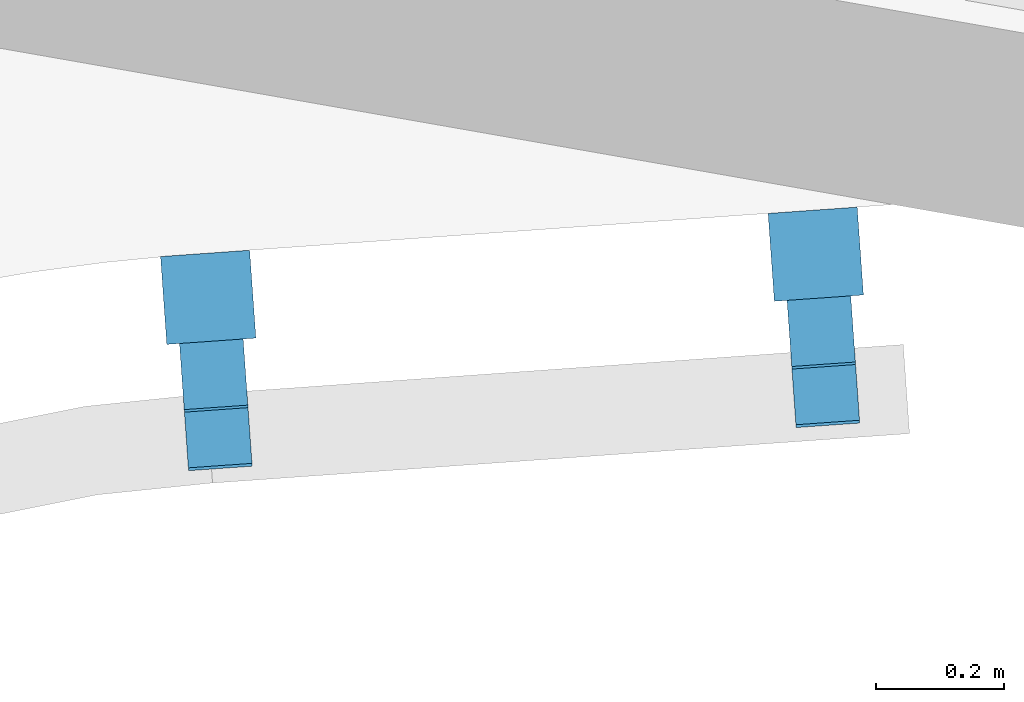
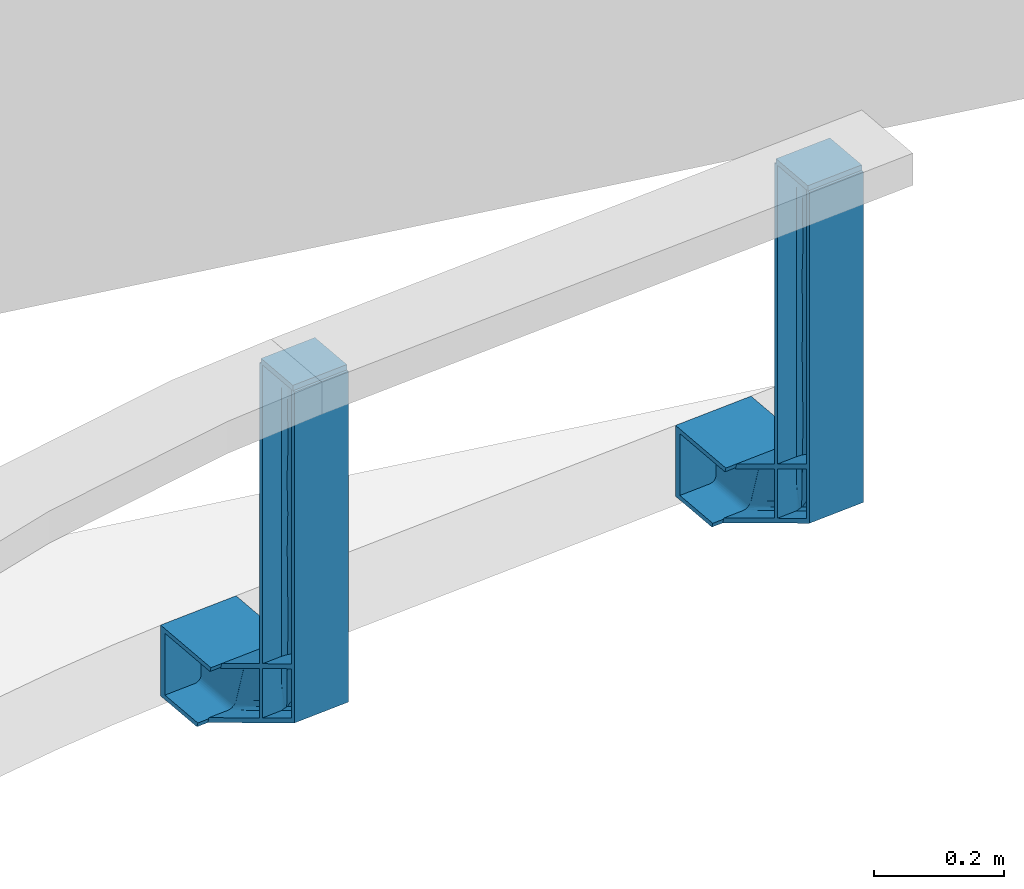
# One storey, part 46 of 68: 2 beams.
"""IFC2X3 building model written with IfcOpenShell, lengths in millimetres."""

from ifc_helpers import new_model, entity, si_unit, converted_unit, derived_unit, direction, frame, origin, place, context, subcontext, project, spatial, faceted_brep, source, transform, mapped, material, type_object, type_shapes, element, save


model = new_model("IFC2X3")

# Units and contexts
model_context = context("Model", 3, precision=0.01, world=origin(), true_north=direction((6.12303176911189e-17, 1.0)))
body_context = subcontext(model_context, "Body", "Model", "MODEL_VIEW")
ifc_project = project(units=[si_unit("LENGTHUNIT", "METRE", prefix="MILLI"), si_unit("AREAUNIT", "SQUARE_METRE", prefix="MILLI"), si_unit("VOLUMEUNIT", "CUBIC_METRE"), converted_unit("PLANEANGLEUNIT", "DEGREE", entity("IfcRatioMeasure", 0.0174532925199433), si_unit("PLANEANGLEUNIT", "RADIAN"), dimensions=[0, 0, 0, 0, 0, 0, 0]), si_unit("MASSUNIT", "GRAM", prefix="KILO"), derived_unit("MASSDENSITYUNIT", [(si_unit("MASSUNIT", "GRAM", prefix="KILO"), 1), (si_unit("LENGTHUNIT", "METRE"), -3)]), derived_unit("MOMENTOFINERTIAUNIT", [(si_unit("LENGTHUNIT", "METRE"), 4)]), si_unit("TIMEUNIT", "SECOND"), si_unit("FREQUENCYUNIT", "HERTZ"), si_unit("THERMODYNAMICTEMPERATUREUNIT", "DEGREE_CELSIUS"), derived_unit("THERMALTRANSMITTANCEUNIT", [(si_unit("MASSUNIT", "GRAM", prefix="KILO"), 1), (si_unit("THERMODYNAMICTEMPERATUREUNIT", "KELVIN"), -1), (si_unit("TIMEUNIT", "SECOND"), -3)]), derived_unit("VOLUMETRICFLOWRATEUNIT", [(si_unit("LENGTHUNIT", "METRE"), 3), (si_unit("TIMEUNIT", "SECOND"), -1)]), si_unit("ELECTRICCURRENTUNIT", "AMPERE"), si_unit("ELECTRICVOLTAGEUNIT", "VOLT"), si_unit("POWERUNIT", "WATT"), si_unit("FORCEUNIT", "NEWTON", prefix="KILO"), si_unit("ILLUMINANCEUNIT", "LUX"), si_unit("LUMINOUSFLUXUNIT", "LUMEN"), si_unit("LUMINOUSINTENSITYUNIT", "CANDELA"), derived_unit("USERDEFINED", [(si_unit("MASSUNIT", "GRAM", prefix="KILO"), -1), (si_unit("LENGTHUNIT", "METRE"), -2), (si_unit("TIMEUNIT", "SECOND"), 3), (si_unit("LUMINOUSFLUXUNIT", "LUMEN"), 1)]), derived_unit("LINEARVELOCITYUNIT", [(si_unit("LENGTHUNIT", "METRE"), 1), (si_unit("TIMEUNIT", "SECOND"), -1)]), si_unit("PRESSUREUNIT", "PASCAL"), derived_unit("USERDEFINED", [(si_unit("LENGTHUNIT", "METRE"), -2), (si_unit("MASSUNIT", "GRAM", prefix="KILO"), 1), (si_unit("TIMEUNIT", "SECOND"), -2)]), derived_unit("LINEARFORCEUNIT", [(si_unit("MASSUNIT", "GRAM", prefix="KILO"), 1), (si_unit("LENGTHUNIT", "METRE"), 1), (si_unit("TIMEUNIT", "SECOND"), -2), (si_unit("LENGTHUNIT", "METRE"), -1)]), derived_unit("PLANARFORCEUNIT", [(si_unit("MASSUNIT", "GRAM", prefix="KILO"), 1), (si_unit("LENGTHUNIT", "METRE"), 1), (si_unit("TIMEUNIT", "SECOND"), -2), (si_unit("LENGTHUNIT", "METRE"), -2)])], contexts=[model_context])

# Site, building, storey
site_placement = place(None, origin())
site = spatial("IfcSite", under=ifc_project, at=site_placement, Name="Theater aan de Parade", CompositionType="ELEMENT")
building_placement = place(site_placement, origin())
building = spatial("IfcBuilding", under=site, at=building_placement, Name="Theater aan de Parade", CompositionType="ELEMENT")
storey_placement = place(building_placement, frame((0.0, 0.0, 8750.0)))
storey = spatial("IfcBuildingStorey", under=building, at=storey_placement, Name="02 tweede verdieping", CompositionType="ELEMENT", Elevation=8750.0)

# Beams
ifc_material = material(Name="00_PBT_MAT_staal_S355")
beam_type = type_object("IfcBeamType", Name="28_PBT_SF_staal_baluster balkon:baluster HEA100", PredefinedType="BEAM", material=ifc_material)
shared_shape = source(origin(), body_context, "Body", "Brep", [
    faceted_brep([(50.0, -43.537813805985, 625.0), (50.0, 44.0, 625.0), (50.0, 44.0, 635.0), (50.0, -43.537813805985, 635.0), (-50.0, -43.537813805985, 625.0), (-50.0, -43.537813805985, 635.0), (-50.0, 44.0, 635.0), (-50.0, 44.0, 625.0)], [[[0, 1, 2, 3]], [[4, 5, 6, 7]], [[1, 0, 4, 7]], [[2, 1, 7, 6]], [[3, 2, 6, 5]], [[0, 3, 5, 4]]]),
    faceted_brep([(70.0, 278.0, -133.0), (70.0, 290.0, -133.0), (70.0, 290.0, 0.0), (70.0, 278.0, 0.0), (-70.0, 278.0, -133.0), (-70.0, 278.0, 0.0), (-70.0, 290.0, 0.0), (-70.0, 290.0, -133.0)], [[[0, 1, 2, 3]], [[4, 5, 6, 7]], [[1, 0, 4, 7]], [[2, 1, 7, 6]], [[3, 2, 6, 5]], [[0, 3, 5, 4]]]),
    faceted_brep([(14.7499999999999, 278.0, -124.5), (70.0, 278.0, -124.5), (70.0, 278.0, -133.0), (-70.0, 278.0, -133.0), (-70.0, 278.0, -124.500000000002), (-14.7500000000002, 278.0, -124.500000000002), (-11.6441714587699, 278.0, -124.091109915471), (-8.75000000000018, 278.0, -122.892304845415), (-6.26471862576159, 278.0, -120.98528137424), (-4.3576951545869, 278.0, -118.500000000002), (-3.15889008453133, 278.0, -115.605828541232), (-2.75000000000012, 278.0, -112.500000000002), (-2.75000000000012, 278.0, -20.500000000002), (-3.15889008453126, 278.0, -17.3941714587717), (-4.35769515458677, 278.0, -14.500000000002), (-6.26471862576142, 278.0, -12.0147186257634), (-8.74999999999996, 278.0, -10.1076951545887), (-11.6441714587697, 278.0, -8.90889008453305), (-14.7500000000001, 278.0, -8.50000000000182), (-70.0, 278.0, -8.50000000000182), (-70.0, 278.0, 0.0), (70.0, 278.0, 0.0), (70.0, 278.0, -8.50000000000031), (14.7499999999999, 278.0, -8.50000000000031), (11.6441714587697, 278.0, -8.90889008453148), (8.74999999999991, 278.0, -10.107695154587), (6.26471862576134, 278.0, -12.0147186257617), (4.35769515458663, 278.0, -14.5000000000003), (3.15889008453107, 278.0, -17.39417145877), (2.74999999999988, 278.0, -20.5000000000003), (2.74999999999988, 278.0, -112.5), (3.15889008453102, 278.0, -115.60582854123), (4.35769515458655, 278.0, -118.5), (6.26471862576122, 278.0, -120.985281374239), (8.74999999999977, 278.0, -122.892304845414), (11.6441714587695, 278.0, -124.091109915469), (70.0, 151.923048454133, 0.0), (70.0, 154.37480362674, -8.50000000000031), (70.0, 187.834050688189, -124.5), (70.0, 190.285805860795, -133.0), (14.7499999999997, 154.37480362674, -8.50000000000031), (14.7499999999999, 214.85290376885, -8.50000000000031), (-14.7500000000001, 214.852897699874, -8.50000000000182), (-14.7500000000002, 154.37480362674, -8.50000000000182), (-70.0, 154.37480362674, -8.50000000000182), (6.43965673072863, 216.327371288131, -11.8433150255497), (2.74999999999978, 217.521900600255, -20.5000000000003), (12.079748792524, 154.461585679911, -8.8008650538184), (9.5433951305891, 154.717580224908, -9.68837358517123), (7.26812237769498, 155.129950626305, -11.1180222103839), (5.36802221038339, 155.678018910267, -13.0181223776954), (3.05086505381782, 157.065893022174, -17.8297487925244), (2.74999999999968, 157.83610504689, -20.5000000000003), (3.9383735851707, 156.334302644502, -15.2933951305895), (2.74999999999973, 184.372749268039, -112.5), (3.93837358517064, 185.874551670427, -117.706604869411), (3.05086505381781, 185.142961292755, -115.170251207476), (5.36802221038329, 186.530835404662, -119.981877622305), (7.26812237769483, 187.078903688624, -121.881977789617), (9.54339513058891, 187.491274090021, -123.311626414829), (12.0797487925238, 187.747268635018, -124.199134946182), (14.7499999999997, 187.834050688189, -124.5), (-70.0, 187.83405068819, -124.500000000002), (-14.7500000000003, 187.83405068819, -124.500000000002), (-70.0, 190.285805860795, -133.0), (-70.0, 151.923048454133, 0.0), (-9.54339513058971, 187.491274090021, -123.311626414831), (-12.0797487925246, 187.747268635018, -124.199134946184), (-7.2681223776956, 187.078903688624, -121.881977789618), (-5.36802221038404, 186.530835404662, -119.981877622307), (-3.93837358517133, 185.874551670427, -117.706604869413), (-3.05086505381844, 185.142961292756, -115.170251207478), (-2.75000000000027, 184.37274926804, -112.500000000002), (-2.75000000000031, 157.83610504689, -20.500000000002), (-2.75000000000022, 217.521907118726, -20.5000000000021), (-6.43965718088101, 216.327373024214, -11.8433145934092), (-3.05086505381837, 157.065893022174, -17.8297487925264), (-3.93837358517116, 156.334302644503, -15.2933951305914), (-5.36802221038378, 155.678018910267, -13.0181223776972), (-7.2681223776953, 155.129950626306, -11.1180222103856), (-9.54339513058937, 154.717580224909, -9.68837358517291), (-12.0797487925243, 154.461585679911, -8.80086505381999)], [[[0, 1, 2, 3, 4, 5, 6, 7, 8, 9, 10, 11, 12, 13, 14, 15, 16, 17, 18, 19, 20, 21, 22, 23, 24, 25, 26, 27, 28, 29, 30, 31, 32, 33, 34, 35]], [[22, 21, 36, 37]], [[2, 1, 38, 39]], [[23, 22, 37, 40, 41]], [[19, 18, 42, 43, 44]], [[24, 45, 25]], [[25, 45, 26]], [[27, 45, 46]], [[41, 40, 47]], [[23, 41, 24]], [[27, 26, 45]], [[41, 47, 48]], [[45, 49, 50]], [[46, 29, 28]], [[48, 45, 41]], [[46, 28, 27]], [[51, 52, 46]], [[51, 46, 53]], [[45, 53, 46]], [[50, 53, 45]], [[48, 49, 45]], [[41, 45, 24]], [[30, 29, 46, 52, 54]], [[55, 32, 31]], [[56, 31, 30]], [[30, 54, 56]], [[32, 55, 57]], [[55, 31, 56]], [[57, 33, 32]], [[34, 33, 58]], [[35, 34, 59]], [[0, 35, 60]], [[34, 58, 59]], [[0, 60, 61]], [[60, 35, 59]], [[57, 58, 33]], [[1, 0, 61, 38]], [[5, 4, 62, 63]], [[3, 2, 39, 64]], [[4, 3, 64, 62]], [[20, 19, 44, 65]], [[66, 7, 6]], [[67, 6, 5]], [[5, 63, 67]], [[7, 66, 68]], [[66, 6, 67]], [[68, 8, 7]], [[9, 8, 69]], [[10, 9, 70]], [[11, 10, 71]], [[9, 69, 70]], [[11, 71, 72]], [[71, 10, 70]], [[68, 69, 8]], [[12, 11, 72, 73, 74]], [[74, 14, 13]], [[75, 15, 14]], [[17, 16, 75]], [[74, 73, 76]], [[16, 15, 75]], [[76, 77, 74]], [[75, 78, 79]], [[80, 81, 42]], [[77, 75, 74]], [[12, 74, 13]], [[75, 42, 17]], [[42, 18, 17]], [[42, 81, 43]], [[75, 80, 42]], [[80, 75, 79]], [[77, 78, 75]], [[75, 14, 74]], [[21, 20, 65, 36]], [[61, 60, 59, 58, 57, 55, 56, 54, 52, 51, 53, 50, 49, 48, 47, 40, 37, 36, 65, 44, 43, 81, 80, 79, 78, 77, 76, 73, 72, 71, 70, 69, 68, 66, 67, 63, 62, 64, 39, 38]]]),
    faceted_brep([(50.0, 155.119944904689, -11.0833333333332), (50.0, 151.923048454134, 0.0), (50.0, -48.0, 115.425625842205), (50.0, -48.0, 106.188021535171), (50.0, 190.285805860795, -133.0), (50.0, 187.08890941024, -121.916666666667), (50.0, -48.0, 13.8119784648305), (50.0, -48.0, 4.57437415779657), (14.4999999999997, 155.119944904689, -11.0833333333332), (14.4999999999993, -48.0, 106.188021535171), (14.4999999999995, 4.37555520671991, 75.9489806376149), (14.4999999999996, 56.7511250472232, 45.7099312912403), (-50.0, 155.119944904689, -11.0833333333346), (-14.5000000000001, 155.119944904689, -11.0833333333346), (-14.5000000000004, 56.7511361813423, 45.7099248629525), (-14.5000000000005, 4.37556274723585, 75.9489762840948), (-14.5000000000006, -48.0, 106.188021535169), (-50.0, -48.0, 106.188021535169), (12.1589161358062, 155.212086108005, -11.4027780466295), (6.13940978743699, 85.6560198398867, 25.105130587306), (9.9077988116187, 155.484968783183, -12.348836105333), (2.80086505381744, -48.0, 95.4149555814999), (2.49999999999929, -48.0, 92.3316150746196), (2.49999999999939, 4.37556701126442, 62.092567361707), (2.49999999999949, 55.164155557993, 32.7697620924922), (6.04197655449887, 10.2229142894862, 68.5459327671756), (2.49999999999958, 107.539722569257, 2.53071437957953), (2.49999999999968, 159.915289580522, -27.7083333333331), (2.73057663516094, 158.979764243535, -24.4649567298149), (7.83315720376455, 155.92810620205, -13.8851510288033), (11.8297487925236, -48.0, 105.840612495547), (3.41344560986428, 158.0801906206, -21.3462212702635), (4.52236465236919, 157.25113882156, -18.4719782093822), (7.01812237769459, -48.0, 103.164989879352), (5.11802221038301, -48.0, 100.970943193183), (3.68837358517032, -48.0, 98.3436845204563), (9.29339513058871, -48.0, 104.815805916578), (6.01471862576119, 156.524468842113, -15.9526830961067), (2.49999999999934, -48.0, 27.6683849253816), (2.49999999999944, 4.37556959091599, -2.57066427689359), (2.49999999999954, 56.7511354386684, -32.8097113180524), (2.49999999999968, 129.917998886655, -75.052619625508), (2.49999999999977, 182.293564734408, -105.291666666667), (4.52236465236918, 184.957715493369, -114.528021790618), (6.30956465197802, 103.743785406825, -70.0679088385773), (6.01471862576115, 185.684385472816, -117.047316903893), (14.4999999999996, 134.713341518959, -91.6776184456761), (9.90779881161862, 186.723885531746, -120.651163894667), (7.83315720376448, 186.280748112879, -119.114848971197), (12.1589161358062, 186.996768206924, -121.597221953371), (14.4999999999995, 69.5444547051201, -54.0523441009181), (5.87838992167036, 26.3899882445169, -24.9186641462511), (14.4999999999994, 4.3755678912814, -16.4270697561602), (5.11802221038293, -48.0, 19.0290568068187), (3.4134456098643, 184.128663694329, -111.653778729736), (2.80086505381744, -48.0, 24.5850444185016), (3.68837358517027, -48.0, 21.6563154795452), (14.4999999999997, 187.08890941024, -121.916666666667), (7.01812237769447, -48.0, 16.8350101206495), (9.29339513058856, -48.0, 15.1841940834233), (2.73057663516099, 183.229090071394, -108.535043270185), (14.4999999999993, -48.0, 13.8119784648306), (11.8297487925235, -48.0, 14.1593875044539), (-50.0, 187.088909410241, -121.916666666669), (-50.0, -48.0, 13.8119784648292), (-14.5000000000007, -48.0, 13.8119784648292), (-14.5000000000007, 4.37556899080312, -16.4270703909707), (-14.5000000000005, 69.5444561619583, -54.0523449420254), (-14.5000000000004, 134.713343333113, -91.6776194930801), (-14.5000000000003, 187.088909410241, -121.916666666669), (-50.0, 190.285805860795, -133.0), (-50.0, -48.0, 4.57437415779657), (-50.0, 151.923048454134, 0.0), (-50.0, -48.0, 115.425625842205), (-6.30956482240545, 103.743788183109, -70.0679106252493), (-3.41344560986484, 184.128663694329, -111.653778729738), (-4.52236465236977, 184.95771549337, -114.52802179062), (-2.50000000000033, 129.917999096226, -75.0526197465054), (-9.29339513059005, -48.0, 15.1841940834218), (-7.01812237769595, -48.0, 16.835010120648), (-5.87838988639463, 26.389986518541, -24.9186631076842), (-7.8331572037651, 186.28074811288, -119.114848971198), (-6.01471862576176, 185.684385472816, -117.047316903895), (-11.829748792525, -48.0, 14.1593875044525), (-5.11802221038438, -48.0, 19.0290568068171), (-2.50000000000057, 4.37557526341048, -2.57066755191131), (-2.50000000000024, 182.293564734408, -105.291666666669), (-2.7305766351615, 183.229090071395, -108.535043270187), (-9.90779881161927, 186.723885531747, -120.651163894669), (-12.1589161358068, 186.996768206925, -121.597221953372), (-2.80086505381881, -48.0, 24.5850444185), (-2.50000000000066, -48.0, 27.6683849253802), (-2.50000000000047, 56.7511409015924, -32.8097144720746), (-3.68837358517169, -48.0, 21.6563154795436), (-2.50000000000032, 159.915289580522, -27.708333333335), (-2.50000000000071, -48.0, 92.3316150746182), (-2.50000000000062, 4.37556371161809, 62.0925692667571), (-2.50000000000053, 55.1641543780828, 32.7697627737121), (-2.50000000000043, 107.539718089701, 2.53071696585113), (-2.73057663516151, 158.979764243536, -24.464956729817), (-11.8297487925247, -48.0, 105.840612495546), (-6.01471862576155, 156.524468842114, -15.9526830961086), (-6.13940988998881, 85.6560228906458, 25.1051289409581), (-7.83315720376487, 155.92810620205, -13.885151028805), (-5.11802221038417, -48.0, 100.970943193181), (-7.0181223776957, -48.0, 103.16498987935), (-6.04197656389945, 10.2229155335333, 68.5459320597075), (-9.90779881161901, 155.484968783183, -12.3488361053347), (-4.52236465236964, 157.25113882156, -18.4719782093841), (-2.80086505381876, -48.0, 95.4149555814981), (-3.68837358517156, -48.0, 98.3436845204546), (-12.1589161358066, 155.212086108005, -11.402778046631), (-3.41344560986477, 158.080190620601, -21.3462212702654), (-9.29339513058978, -48.0, 104.815805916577)], [[[0, 1, 2, 3]], [[4, 5, 6, 7]], [[8, 0, 3, 9, 10, 11]], [[12, 13, 14, 15, 16, 17]], [[18, 19, 20]], [[21, 22, 23]], [[23, 24, 25]], [[26, 27, 28]], [[29, 20, 19]], [[26, 19, 24]], [[10, 25, 11]], [[8, 11, 18]], [[18, 11, 19]], [[11, 25, 19]], [[19, 25, 24]], [[10, 9, 30]], [[31, 32, 26]], [[33, 34, 25]], [[35, 25, 34]], [[23, 25, 35]], [[33, 25, 36]], [[28, 31, 26]], [[37, 19, 32]], [[36, 10, 30]], [[19, 26, 32]], [[21, 23, 35]], [[25, 10, 36]], [[29, 19, 37]], [[27, 26, 24, 23, 22, 38, 39, 40, 41, 42]], [[43, 44, 45]], [[46, 47, 48]], [[49, 47, 46]], [[50, 51, 52]], [[51, 39, 53]], [[44, 43, 54]], [[39, 38, 55]], [[56, 39, 55]], [[46, 57, 49]], [[44, 41, 40]], [[51, 53, 58]], [[44, 48, 45]], [[58, 59, 51]], [[44, 54, 41]], [[60, 41, 54]], [[51, 44, 40]], [[61, 52, 62]], [[51, 40, 39]], [[50, 46, 44]], [[46, 48, 44]], [[53, 39, 56]], [[60, 42, 41]], [[62, 52, 59]], [[50, 44, 51]], [[59, 52, 51]], [[5, 57, 46, 50, 52, 61, 6]], [[63, 64, 65, 66, 67, 68, 69]], [[70, 4, 7, 71]], [[63, 70, 71, 64]], [[72, 12, 17, 73]], [[74, 68, 67]], [[74, 75, 76]], [[75, 74, 77]], [[78, 79, 80]], [[81, 74, 82]], [[78, 66, 83]], [[84, 85, 80]], [[77, 86, 87]], [[68, 81, 88]], [[89, 68, 88]], [[90, 91, 85]], [[80, 74, 67]], [[66, 78, 80]], [[74, 80, 92]], [[66, 65, 83]], [[92, 80, 85]], [[90, 85, 93]], [[85, 84, 93]], [[81, 68, 74]], [[79, 84, 80]], [[68, 89, 69]], [[76, 82, 74]], [[92, 77, 74]], [[75, 77, 87]], [[66, 80, 67]], [[94, 86, 77, 92, 85, 91, 95, 96, 97, 98]], [[98, 99, 94]], [[100, 16, 15]], [[101, 102, 103]], [[104, 105, 106]], [[103, 102, 107]], [[108, 102, 101]], [[102, 106, 14]], [[102, 97, 106]], [[108, 98, 102]], [[96, 109, 110]], [[102, 111, 107]], [[96, 106, 97]], [[104, 106, 110]], [[99, 98, 112]], [[106, 15, 14]], [[108, 112, 98]], [[100, 15, 113]], [[111, 102, 14]], [[110, 106, 96]], [[98, 97, 102]], [[15, 106, 113]], [[14, 13, 111]], [[113, 106, 105]], [[96, 95, 109]], [[1, 72, 73, 2]], [[61, 62, 59, 58, 53, 56, 55, 38, 22, 21, 35, 34, 33, 36, 30, 9, 3, 2, 73, 17, 16, 100, 113, 105, 104, 110, 109, 95, 91, 90, 93, 84, 79, 78, 83, 65, 64, 71, 7, 6]], [[8, 18, 20, 29, 37, 32, 31, 28, 27, 42, 60, 54, 43, 45, 48, 47, 49, 57, 5, 4, 70, 63, 69, 89, 88, 81, 82, 76, 75, 87, 86, 94, 99, 112, 108, 101, 103, 107, 111, 13, 12, 72, 1, 0]]]),
    faceted_brep([(14.4999999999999, 40.0, 625.0), (50.0, 40.0, 625.0), (50.0, 48.0, 625.0), (-50.0, 48.0, 625.0), (-50.0, 40.0, 625.0), (-14.5000000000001, 40.0, 625.0), (-11.3941714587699, 39.5911099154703, 625.0), (-8.50000000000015, 38.3923048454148, 625.0), (-6.01471862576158, 36.4852813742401, 625.0), (-4.10769515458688, 34.0, 625.0), (-2.90889008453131, 31.1058285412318, 625.0), (-2.50000000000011, 28.0, 625.0), (-2.50000000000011, -28.0, 625.0), (-2.90889008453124, -31.1058285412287, 625.0), (-4.10769515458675, -34.0, 625.0), (-6.01471862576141, -36.4852813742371, 625.0), (-8.49999999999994, -38.3923048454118, 625.0), (-11.3941714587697, -39.5911099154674, 625.0), (-14.5000000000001, -40.0, 625.0), (-50.0, -40.0, 625.0), (-50.0, -48.0, 625.0), (50.0, -48.0, 625.0), (50.0, -40.0, 625.0), (14.4999999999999, -40.0, 625.0), (11.3941714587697, -39.5911099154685, 625.0), (8.49999999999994, -38.392304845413, 625.0), (6.01471862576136, -36.4852813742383, 625.0), (4.10769515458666, -34.0, 625.0), (2.90889008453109, -31.10582854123, 625.0), (2.49999999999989, -28.0, 625.0), (2.49999999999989, 28.0, 625.0), (2.90889008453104, 31.1058285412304, 625.0), (4.10769515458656, 34.0, 625.0), (6.01471862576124, 36.4852813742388, 625.0), (8.4999999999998, 38.3923048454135, 625.0), (11.3941714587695, 39.5911099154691, 625.0), (50.0, -48.0, 165.0), (50.0, -48.0, 4.57437415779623), (50.0, -40.0, -0.0444279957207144), (50.0, 40.0, -46.2324495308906), (50.0, 48.0, -50.8512516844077), (14.4999999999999, -40.0, -0.0444279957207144), (14.4999999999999, -40.0, 60.433662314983), (14.4999999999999, -40.0, 156.216673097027), (14.4999999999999, -40.0, 234.347235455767), (14.4999999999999, -40.0, 312.477797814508), (14.4999999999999, -40.0, 390.608336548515), (14.4999999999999, -40.0, 468.738898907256), (14.4999999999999, -40.0, 564.521909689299), (-14.4999999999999, -40.0, 564.521898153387), (-14.4999999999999, -40.0, 468.738893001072), (-14.4999999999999, -40.0, 390.608339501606), (-14.4999999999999, -40.0, 312.477786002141), (-14.5, -40.0, 234.347232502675), (-14.5, -40.0, 156.21667900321), (-14.5, -40.0, 60.4336544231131), (-14.5, -40.0, -0.0444279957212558), (-50.0, -40.0, -0.0444279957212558), (6.01471822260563, -36.4852809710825, 534.282851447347), (6.38111782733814, -36.8365011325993, 422.595542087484), (2.49999999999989, -28.0, 429.969869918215), (2.49999999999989, -28.0, 504.043806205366), (7.01812237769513, -37.3819777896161, -1.55594382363), (5.87838991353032, -36.3467262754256, 83.7445110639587), (9.29339513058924, -38.8116264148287, -0.730535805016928), (2.49999999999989, -28.0, 564.521903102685), (5.11802221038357, -35.4818776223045, -2.65296716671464), (11.8297487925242, -39.6991349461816, -0.21813251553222), (5.33717277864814, -35.7487158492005, 157.721305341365), (6.03175640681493, -36.5022850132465, 273.412504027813), (2.49999999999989, -28.0, 113.983554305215), (2.80086505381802, -30.6702512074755, -5.43096097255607), (2.49999999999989, -28.0, -6.97263122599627), (2.49999999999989, -28.0, 53.5054574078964), (6.45584074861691, -36.9045775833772, 351.543056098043), (3.68837358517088, -33.2066048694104, -3.96659650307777), (2.49999999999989, -28.0, 174.461651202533), (2.49999999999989, -28.0, 234.939748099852), (2.49999999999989, -28.0, 332.454809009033), (2.49999999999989, 28.0, -39.3042463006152), (2.49999999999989, 28.0, 21.173847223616), (2.49999999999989, 28.0, 81.6519407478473), (2.49999999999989, 28.0, 171.891681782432), (2.49999999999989, 28.0, 277.489637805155), (2.49999999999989, 28.0, 383.087609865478), (2.49999999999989, 28.0, 443.56570338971), (2.49999999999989, 28.0, 504.043796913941), (2.49999999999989, 28.0, 564.521906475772), (14.4999999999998, 40.0, 564.521898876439), (6.01471890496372, 36.4852816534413, 534.282850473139), (14.4999999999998, 40.0, 457.191892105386), (14.4999999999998, 40.0, 74.7237437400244), (5.87838987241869, 36.3467262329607, 51.4128968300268), (14.4999999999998, 40.0, 14.245651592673), (7.12980766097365, 37.4699664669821, 128.3887480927), (14.4999999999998, 40.0, 182.05375948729), (5.68142979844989, 36.138354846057, 331.335798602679), (14.4999999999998, 40.0, 289.383775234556), (14.4999999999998, 40.0, 373.287833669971), (6.48410362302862, 36.9300282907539, 264.631830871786), (3.68837358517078, 33.2066048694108, -42.3102810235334), (5.11802221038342, 35.481877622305, -43.6239103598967), (11.8297487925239, 39.6991349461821, -46.058745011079), (14.4999999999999, 40.0, -46.2324495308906), (9.29339513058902, 38.8116264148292, -45.5463417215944), (7.01812237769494, 37.3819777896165, -44.7209337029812), (5.85986411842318, 36.3275477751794, 197.731198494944), (5.34384824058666, 35.7566026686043, 460.437179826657), (2.80086505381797, 30.6702512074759, -40.8459165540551), (6.59968170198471, 37.0324399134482, 396.193688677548), (-50.0, 40.0, -46.2324495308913), (-14.5000000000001, 40.0, -46.2324495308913), (-14.5000000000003, 40.0, 14.245637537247), (-14.5000000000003, 40.0, 121.575655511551), (-14.5000000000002, 40.0, 205.479712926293), (-14.5000000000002, 40.0, 289.383770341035), (-14.5000000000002, 40.0, 373.287827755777), (-14.5000000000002, 40.0, 457.191885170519), (-14.5000000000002, 40.0, 564.521903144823), (-50.0, 48.0, -50.8512516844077), (-50.0, -48.0, 4.57437415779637), (-50.0, -48.0, 165.0), (-6.01471845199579, 36.4852812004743, 534.282853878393), (-5.34384807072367, 35.7566024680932, 460.437182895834), (-2.5000000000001, 28.0, 504.043796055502), (-2.5000000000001, 28.0, 564.521888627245), (-7.01812237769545, 37.3819777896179, -44.720933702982), (-9.29339513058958, 38.8116264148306, -45.5463417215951), (-5.68142973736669, 36.1383547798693, 331.33579885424), (-6.3722320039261, 36.8283286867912, 262.824412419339), (-2.5000000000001, 28.0, 383.087610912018), (-6.59968165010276, 37.0324398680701, 396.193689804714), (-11.8297487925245, 39.6991349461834, -46.0587450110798), (-6.18948395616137, 36.6565191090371, 51.4128959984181), (-5.11802221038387, 35.4818776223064, -43.6239103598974), (-3.68837358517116, 33.2066048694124, -42.3102810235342), (-2.80086505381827, 30.6702512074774, -40.8459165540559), (-2.5000000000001, 28.0, 21.1738462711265), (-2.5000000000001, 28.0, 81.6519388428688), (-5.3518166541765, 35.7659990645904, 125.002033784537), (-2.5000000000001, 28.0, -39.3042463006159), (-2.5000000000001, 28.0, 277.489637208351), (-2.5000000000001, 28.0, 443.56570348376), (-2.5000000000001, 28.0, 171.891682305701), (-5.88018165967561, 36.3485766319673, 194.135386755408), (-2.50000000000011, -28.0, -6.97263122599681), (-2.50000000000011, -28.0, 53.5054568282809), (-2.50000000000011, -28.0, 113.983561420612), (-2.50000000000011, -28.0, 174.461666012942), (-2.50000000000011, -28.0, 234.93975406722), (-2.50000000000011, -28.0, 332.454811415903), (-2.50000000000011, -28.0, 429.969885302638), (-2.50000000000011, -28.0, 504.043823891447), (-2.50000000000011, -28.0, 564.521911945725), (-9.29339513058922, -38.8116264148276, -0.730535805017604), (-5.8783899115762, -36.3467262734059, 83.7445122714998), (-5.33717271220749, -35.7487157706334, 157.721307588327), (-6.0147187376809, -36.4852814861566, 534.282853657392), (-6.45584072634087, -36.9045775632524, 351.543059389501), (-6.38111797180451, -36.8365012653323, 422.595548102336), (-2.80086505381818, -30.6702512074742, -5.43096097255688), (-3.688373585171, -33.2066048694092, -3.96659650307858), (-5.11802221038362, -35.4818776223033, -2.65296716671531), (-7.01812237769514, -37.3819777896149, -1.55594382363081), (-6.03175635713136, -36.5022849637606, 273.412506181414), (-11.8297487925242, -39.6991349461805, -0.218132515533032)], [[[0, 1, 2, 3, 4, 5, 6, 7, 8, 9, 10, 11, 12, 13, 14, 15, 16, 17, 18, 19, 20, 21, 22, 23, 24, 25, 26, 27, 28, 29, 30, 31, 32, 33, 34, 35]], [[22, 21, 36, 37, 38]], [[2, 1, 39, 40]], [[23, 22, 38, 41, 42, 43, 44, 45, 46, 47, 48]], [[19, 18, 49, 50, 51, 52, 53, 54, 55, 56, 57]], [[58, 26, 25]], [[26, 58, 27]], [[48, 47, 58]], [[59, 60, 61]], [[62, 63, 64]], [[28, 27, 65]], [[63, 62, 66]], [[42, 41, 67]], [[68, 69, 44]], [[63, 70, 68]], [[58, 61, 65]], [[42, 63, 43]], [[68, 43, 63]], [[64, 42, 67]], [[24, 23, 48]], [[71, 72, 73]], [[25, 48, 58]], [[69, 74, 45]], [[45, 74, 46]], [[65, 27, 58]], [[24, 48, 25]], [[71, 73, 75]], [[64, 63, 42]], [[70, 63, 73]], [[73, 66, 75]], [[58, 59, 61]], [[66, 73, 63]], [[65, 29, 28]], [[44, 69, 45]], [[76, 77, 68, 70]], [[44, 43, 68]], [[77, 78, 69]], [[78, 60, 74]], [[77, 69, 68]], [[59, 46, 74]], [[59, 74, 60]], [[78, 74, 69]], [[59, 47, 46]], [[47, 59, 58]], [[30, 29, 65, 61, 60, 78, 77, 76, 70, 73, 72, 79, 80, 81, 82, 83, 84, 85, 86, 87]], [[34, 88, 35]], [[89, 90, 88]], [[91, 92, 93]], [[33, 89, 34]], [[81, 80, 92]], [[94, 91, 95]], [[32, 89, 33]], [[96, 97, 98]], [[97, 96, 99]], [[100, 101, 92]], [[87, 86, 89]], [[31, 87, 32]], [[100, 92, 80]], [[102, 103, 93]], [[102, 93, 104]], [[32, 87, 89]], [[101, 105, 92]], [[93, 105, 104]], [[106, 95, 99]], [[88, 34, 89]], [[107, 89, 86]], [[88, 0, 35]], [[80, 108, 100]], [[80, 79, 108]], [[105, 93, 92]], [[31, 30, 87]], [[106, 94, 95]], [[94, 82, 81]], [[90, 89, 107]], [[92, 94, 81]], [[91, 94, 92]], [[82, 94, 106]], [[109, 98, 90]], [[107, 85, 109]], [[84, 109, 85]], [[109, 96, 98]], [[96, 84, 83]], [[106, 83, 82]], [[99, 96, 83]], [[97, 99, 95]], [[106, 99, 83]], [[96, 109, 84]], [[107, 86, 85]], [[107, 109, 90]], [[1, 0, 88, 90, 98, 97, 95, 91, 93, 103, 39]], [[5, 4, 110, 111, 112, 113, 114, 115, 116, 117, 118]], [[3, 2, 40, 119]], [[4, 3, 119, 110]], [[20, 19, 57, 120, 121]], [[8, 7, 122]], [[7, 118, 122]], [[123, 124, 122]], [[124, 125, 122]], [[126, 112, 127]], [[6, 5, 118]], [[6, 118, 7]], [[123, 122, 117]], [[128, 115, 129]], [[128, 130, 131]], [[112, 111, 132]], [[133, 126, 134]], [[8, 122, 9]], [[133, 113, 112]], [[133, 134, 135]], [[136, 137, 135]], [[118, 117, 122]], [[135, 137, 133]], [[138, 139, 133]], [[138, 133, 137]], [[122, 125, 9]], [[137, 136, 140]], [[127, 112, 132]], [[125, 11, 10]], [[112, 126, 133]], [[10, 9, 125]], [[113, 133, 139]], [[128, 141, 130]], [[142, 124, 123]], [[123, 117, 131]], [[115, 128, 116]], [[116, 128, 131]], [[139, 138, 143]], [[144, 114, 113]], [[113, 139, 144]], [[143, 144, 139]], [[144, 141, 129]], [[115, 114, 129]], [[144, 143, 141]], [[128, 129, 141]], [[144, 129, 114]], [[116, 131, 117]], [[130, 142, 131]], [[142, 123, 131]], [[11, 125, 124, 142, 130, 141, 143, 138, 137, 140, 145, 146, 147, 148, 149, 150, 151, 152, 153, 12]], [[49, 17, 16]], [[154, 55, 155]], [[156, 147, 155]], [[157, 153, 152]], [[14, 157, 15]], [[157, 16, 15]], [[158, 51, 159]], [[157, 50, 49]], [[160, 161, 146]], [[156, 155, 54]], [[49, 18, 17]], [[13, 153, 14]], [[12, 153, 13]], [[155, 162, 163]], [[151, 158, 159]], [[14, 153, 157]], [[146, 145, 160]], [[163, 154, 155]], [[155, 147, 146]], [[146, 162, 155]], [[164, 158, 150]], [[165, 56, 55]], [[54, 155, 55]], [[49, 16, 157]], [[161, 162, 146]], [[165, 55, 154]], [[159, 50, 157]], [[152, 159, 157]], [[148, 147, 156, 149]], [[149, 156, 164]], [[53, 52, 164]], [[156, 54, 53]], [[53, 164, 156]], [[51, 158, 52]], [[149, 164, 150]], [[52, 158, 164]], [[150, 158, 151]], [[152, 151, 159]], [[159, 51, 50]], [[21, 20, 121, 120, 37, 36]], [[103, 102, 104, 105, 101, 100, 108, 79, 72, 71, 75, 66, 62, 64, 67, 41, 38, 37, 120, 57, 56, 165, 154, 163, 162, 161, 160, 145, 140, 136, 135, 134, 126, 127, 132, 111, 110, 119, 40, 39]]]),
])
type_shapes(beam_type, [shared_shape])
for number, where, z_axis, x_axis, name in (
    (1, (57667.6567583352, 42309.3383771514, -2040.0), (0.0, 0.0, 1.0), (0.997491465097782, 0.0707868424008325, 0.0), "28_PBT_SF_staal_baluster balkon:baluster HEA100"),
    (2, (58620.1788204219, 42376.9339721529, -2040.0), (0.0, 0.0, 1.0), (0.997491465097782, 0.0707868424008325, 0.0), "28_PBT_SF_staal_baluster balkon:baluster HEA100"),
):
    element("IfcBeam", number, at=place(storey_placement, frame(where, z_axis=z_axis, x_axis=x_axis)), inside=storey, type_object=beam_type, material=ifc_material, Name=name, ObjectType="28_PBT_SF_staal_baluster balkon:baluster HEA100", context=body_context, shape_type="MappedRepresentation", body=[
        mapped(shared_shape, transform((0.0, 0.0, 0.0), scale=1.0)),
    ])

save(model, "model.ifc")
